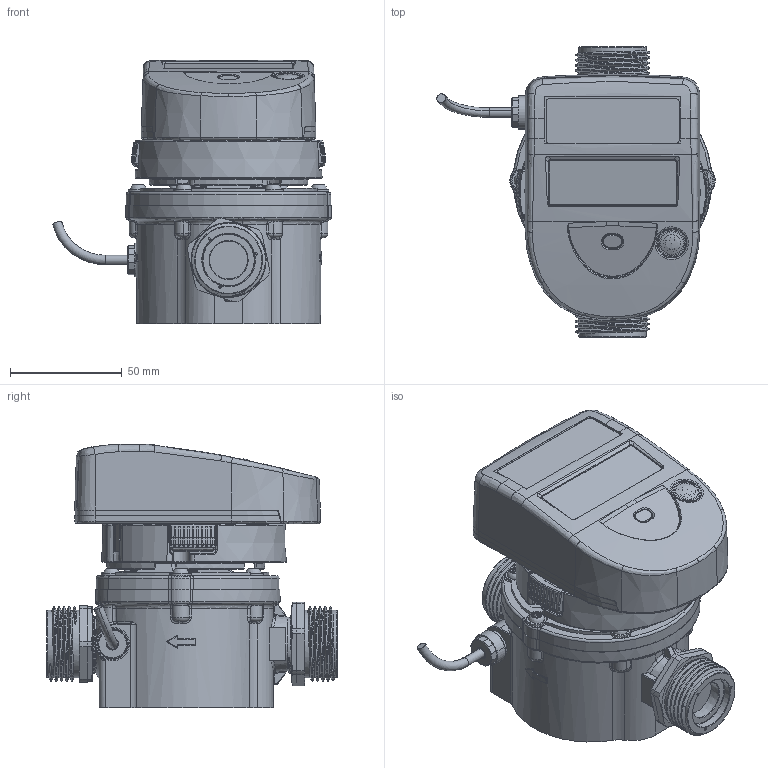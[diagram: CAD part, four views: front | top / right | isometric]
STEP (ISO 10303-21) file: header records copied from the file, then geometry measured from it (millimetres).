
FILE_DESCRIPTION(/* description */ ('Unknown'),/* implementation_level */ '2;1');
FILE_NAME(/* name */ '0789A133_BasePPA_qp1.5_130mm_rempli',/* time_stamp */ '2022-09-22T09:41:47+02:00',/* author */ ('Unknown'),/* organization */ ('Unknown'),/* preprocessor_version */ 'ST-DEVELOPER v18.102',/* originating_system */ 'Solid Edge',/* authorisation */ 'Unknown');
FILE_SCHEMA (('AUTOMOTIVE_DESIGN {1 0 10303 214 3 1 1}'));
Products named in the file (22): 0789A133_BasePPA_qp1.5_130mm_rempli; R_0739-1001 Assembly Calculator-oa5; R_0739P023; R_0739P150_monté; R_0739P022; R_0739P025; R_R_0739P026; R_0739P100-749P100; R_0739P020; R_R_0739P021; R_0749P070; R_0749P072; 0789P200_rempli; VIS00001; 0789P201_rempli; 00759783_vente_sonde Ø5; 00759783_AllCATPart_4_0; 00759783_AllCATPart_5_0; 00759783_AllCATPart_7_0; Flat rubber ringSLDPRT_0; cable ﾘ4.2; 0714P052
Assembly tree (30 placements, depth 3):
  0789A133_BasePPA_qp1.5_130mm_rempli
    R_0739-1001 Assembly Calculator-oa5
      R_0739P023
      R_0739P150_monté
      R_0739P022
      R_0739P025
      R_R_0739P026
      R_0739P100-749P100
      R_0739P020
      R_R_0739P021
    R_0749P070
    R_0749P072  x4
    0789P200_rempli
    VIS00001  x6
    0789P201_rempli
    00759783_vente_sonde Ø5
      00759783_AllCATPart_4_0
      00759783_AllCATPart_5_0
      00759783_AllCATPart_7_0
      Flat rubber ringSLDPRT_0
      cable ﾘ4.2
    0714P052  x2
Bounding box: 124.46 x 130.2 x 117.81 mm (x, y, z)
Volume: 696709 mm3; surface area: 165870 mm2
Topology: 28 solids, 46 shells, 2599 faces, 6382 edges, 3882 vertices
Faces by surface type: cylinder 822, plane 725, torus 411, cone 293, bspline 264, sphere 84
Full cylindrical faces by diameter (mm): 1 x6, 1.5 x4, 2.05 x3, 2.1 x1, 2.5 x4, 2.6 x3, 2.7 x4, 3.5 x1, 4 x6, 4.2 x6, 4.5 x6, 5 x4, 6 x2, 7.4 x1, 8.5 x1, 8.92 x1, 9 x6, 10 x4, 11.7 x1, 12 x1, 19.6 x2, 23.997 x1, 24 x2, 24.117 x12, 30.291 x10, 63.6 x1
Entity records: 87203 total; most frequent: CARTESIAN_POINT 33113, ORIENTED_EDGE 10568, DIRECTION 9905, EDGE_CURVE 5284, AXIS2_PLACEMENT_3D 4195, VERTEX_POINT 3307, FACE_BOUND 2533, EDGE_LOOP 2525
